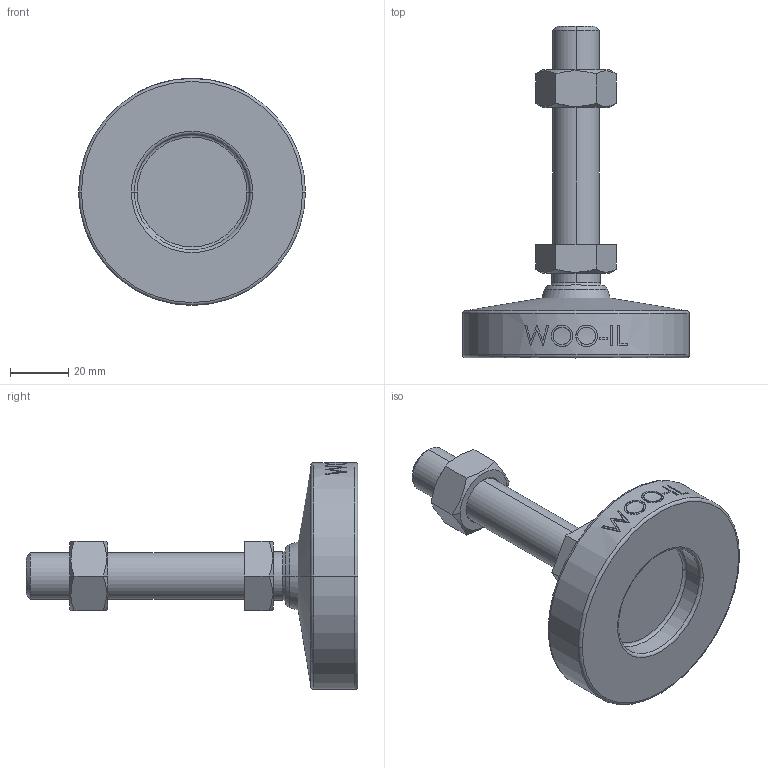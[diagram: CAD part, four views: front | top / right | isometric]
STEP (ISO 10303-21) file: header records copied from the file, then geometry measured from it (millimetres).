
FILE_DESCRIPTION (( 'STEP AP214' ), '1' );
FILE_NAME ('MFN78-M16-75.step', '2021-01-19T06:30:21', ( '' ), ( '' ), 'SwSTEP 2.0', 'SolidWorks 2019', '' );
FILE_SCHEMA (( 'AUTOMOTIVE_DESIGN' ));
Length unit declared in the file: millimetre
Products named in the file (2): MFN78-M16-75
Bounding box: 78 x 114 x 78 mm (x, y, z)
Volume: 102767.6 mm3; surface area: 21969.2 mm2
Topology: 2 solids, 2 shells, 109 faces, 253 edges, 160 vertices
Faces by surface type: plane 47, cone 18, cylinder 18, bspline 16, torus 8, sphere 2
Entity records: 4621 total; most frequent: CARTESIAN_POINT 2196, ORIENTED_EDGE 506, DIRECTION 461, EDGE_CURVE 253, AXIS2_PLACEMENT_3D 179, VERTEX_POINT 160, EDGE_LOOP 123, FACE_OUTER_BOUND 109
